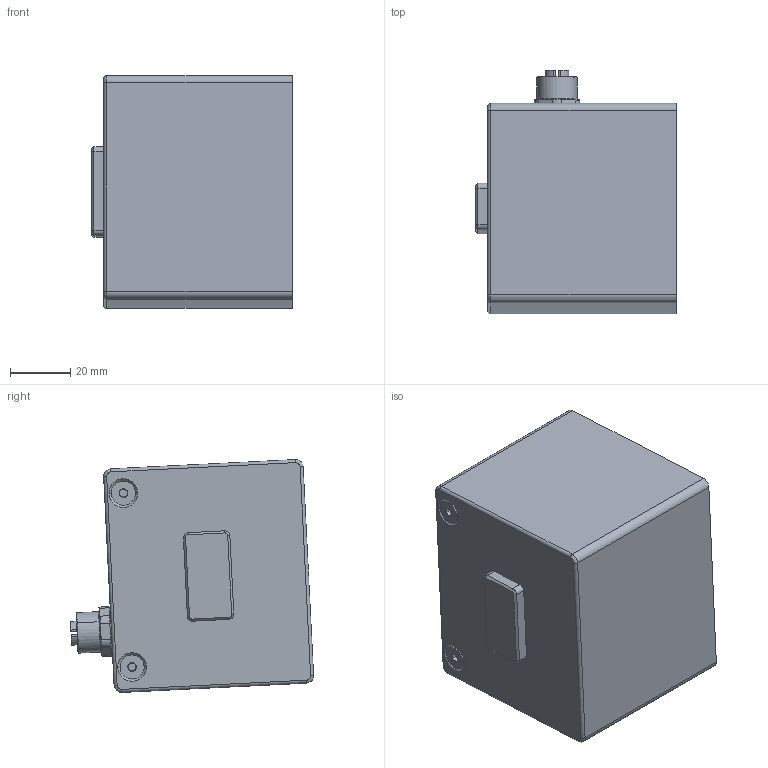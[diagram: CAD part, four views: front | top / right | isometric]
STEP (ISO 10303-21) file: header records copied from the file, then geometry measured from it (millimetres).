
FILE_DESCRIPTION((''),'2;1');
FILE_NAME('MSXS-08PFFR-SF7003_10','2026-05-12T12:13:47',('w.i'),(''),'CREO PARAMETRIC BY PTC INC, 2023073','CREO PARAMETRIC BY PTC INC, 2023073','');
FILE_SCHEMA(('CONFIG_CONTROL_DESIGN','SHAPE_APPEARANCE_LAYERS_GROUPS'));
Length unit declared in the file: millimetre
Products named in the file (1): MSXS-08PFFR-SF7003_10
Bounding box: 66.5 x 80.59 x 77.17 mm (x, y, z)
Volume: 309621.3 mm3; surface area: 30156.4 mm2
Topology: 1 solids, 5 shells, 563 faces, 1594 edges, 1060 vertices
Faces by surface type: plane 226, cylinder 191, cone 107, torus 24, bspline 15
Entity records: 30793 total; most frequent: CARTESIAN_POINT 12652, ORIENTED_EDGE 3152, DIRECTION 2996, EDGE_CURVE 1576, AXIS2_PLACEMENT_3D 1140, VERTEX_POINT 1059, VECTOR 716, LINE 716
